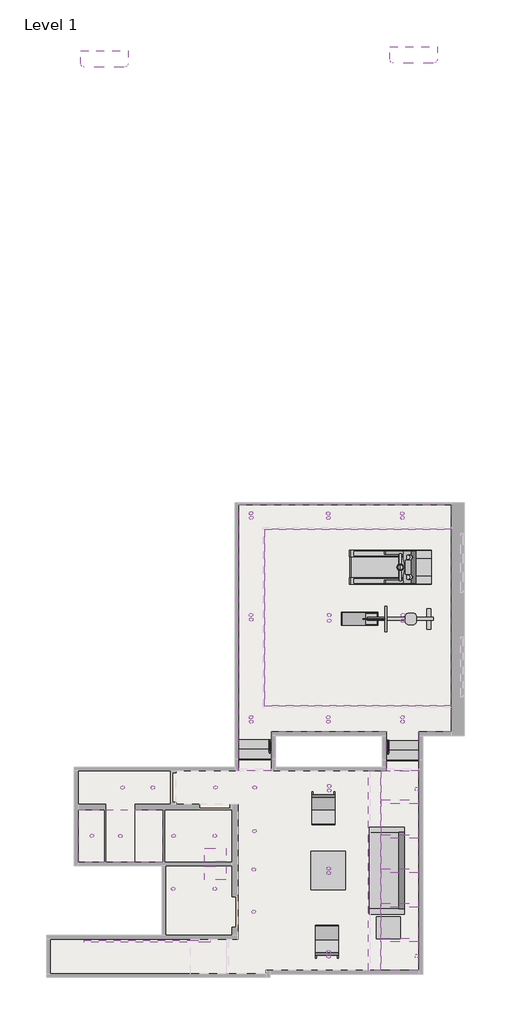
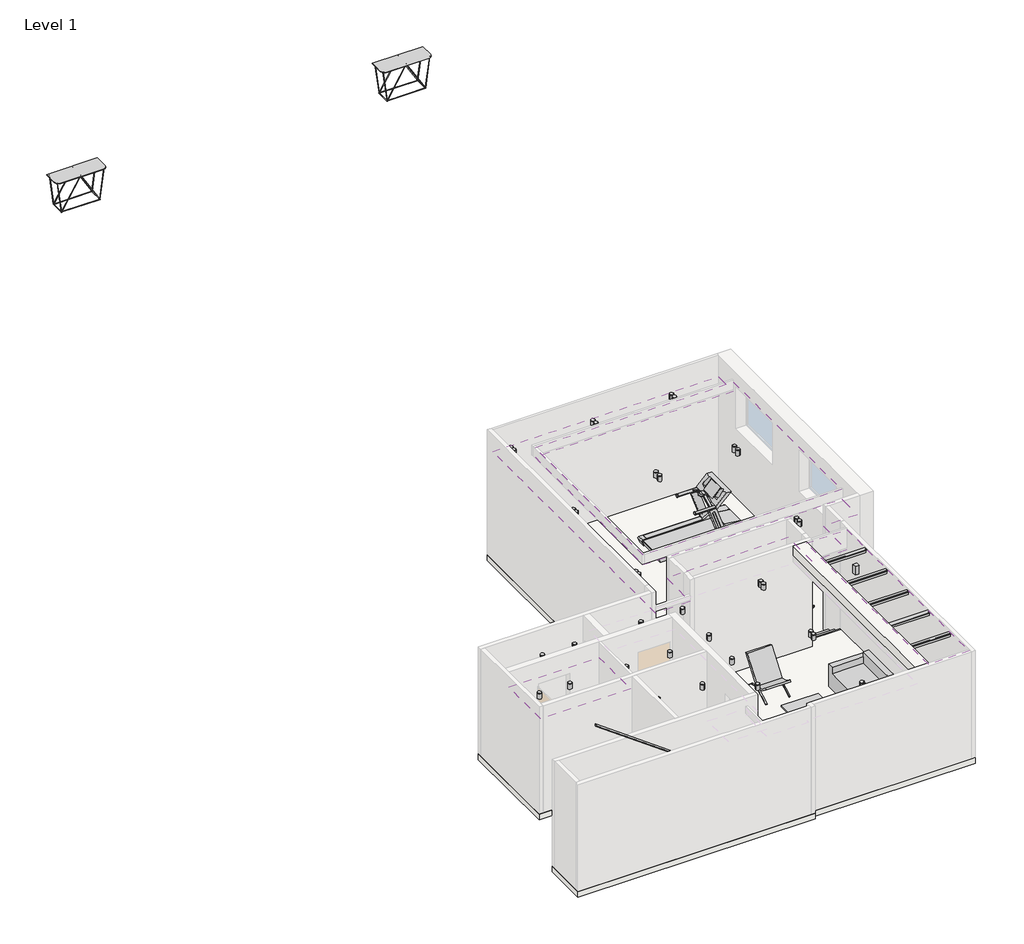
# One storey, part 2 of 2: 39 light fixtures, 7 furniture elements, 5 beams, 4 coverings, 4 slabs, 3 railings, 2 flow terminals, 2 proxies, 2 stair flights.
"""IFC4 building model written with IfcOpenShell, lengths in millimetres."""

from ifc_helpers import new_model, si_unit, point, frame, frame_2d, origin, place, context, project, spatial, polyline, circle_curve, trimmed, segment, composite_curve, outline, extrude, faceted_brep, transform, mapped, element, save
from components import type_1_30184b28, generic_models_89150c6d, treadmill_treadmill_ad7cba51, lavabo_001_lavabo_001_a05f0334, lavabo_001_lavabo_001_02f3cc6c, chair_001_chair_001_a96d8df5, chair_002_chair_002_6fc5d0be, chair_003_chair_003_dcad3793, table_001_table_001_a1878843, table_29_table_12_be3ec3c2, downlight_01_standard_4b9499b6, lighting_02_standard_022d6cc6, c1_3_be0866bc, railing_1_railings_1_d953be8f, railing_2_railings_1_0df469a2

model = new_model("IFC4")

# Units and contexts
model_context = context("Model", 3, world=origin())
ifc_project = project(units=[si_unit("LENGTHUNIT", "METRE", prefix="MILLI")], contexts=[model_context])

# Site, building, storey
site = spatial("IfcSite", under=ifc_project)
building = spatial("IfcBuilding", under=site)
storey = spatial("IfcBuildingStorey", under=building, Name="Level 1", Elevation=0.0)

# Beams
placement = place(None, origin())
type_1_shape = type_1_30184b28(model_context)
element("IfcBeam", 1, ObjectType="M_WT Shapes : type 1", at=placement, inside=storey, context=model_context, shape_type="MappedRepresentation", body=[
    mapped(type_1_shape, transform((3443.8466269, 3718.2967998, 3391.5263783), x_axis=(1.0, 0.0, 0.0), y_axis=(0.0, 1.0, 0.0), z_axis=(0.0, 0.0, 1.0))),
])
element("IfcBeam", 2, ObjectType="M_WT Shapes : type 1", at=placement, inside=storey, context=model_context, shape_type="MappedRepresentation", body=[
    mapped(type_1_shape, transform((3443.8466269, 2803.2967998, 3391.6), x_axis=(1.0, 0.0, 0.0), y_axis=(0.0, 1.0, 0.0), z_axis=(0.0, 0.0, 1.0))),
])
element("IfcBeam", 3, ObjectType="M_WT Shapes : type 1", at=placement, inside=storey, context=model_context, shape_type="MappedRepresentation", body=[
    mapped(type_1_shape, transform((3443.8466269, 1893.2967998, 3391.6), x_axis=(1.0, 0.0, 0.0), y_axis=(0.0, 1.0, 0.0), z_axis=(0.0, 0.0, 1.0))),
])
element("IfcBeam", 4, ObjectType="M_WT Shapes : type 1", at=placement, inside=storey, context=model_context, shape_type="MappedRepresentation", body=[
    mapped(type_1_shape, transform((3443.8466269, 988.2967998, 3391.6), x_axis=(1.0, 0.0, 0.0), y_axis=(0.0, 1.0, 0.0), z_axis=(0.0, 0.0, 1.0))),
])
element("IfcBeam", 5, ObjectType="M_WT Shapes : type 1", at=placement, inside=storey, context=model_context, shape_type="MappedRepresentation", body=[
    mapped(type_1_shape, transform((3443.8466269, 68.2967998, 3391.6), x_axis=(1.0, 0.0, 0.0), y_axis=(0.0, 1.0, 0.0), z_axis=(0.0, 0.0, 1.0))),
])

# Proxies
generic_models_shape = generic_models_89150c6d(model_context)
element("IfcBuildingElementProxy", 6, Name="Rowing_Machine : Rowing_Machine", ObjectType="Rowing_Machine : Rowing_Machine", at=placement, inside=storey, context=model_context, shape_type="MappedRepresentation", body=[
    mapped(generic_models_shape, transform((3322.5966269, 8551.9439115, 0.0), x_axis=(-1.0, 0.0, 0.0), y_axis=(0.0, -1.0, 0.0), z_axis=(0.0, 0.0, 1.0))),
])
treadmill_treadmill_shape = treadmill_treadmill_ad7cba51(model_context)
element("IfcBuildingElementProxy", 7, Name="Treadmill : Treadmill", ObjectType="Treadmill : Treadmill", at=placement, inside=storey, context=model_context, shape_type="MappedRepresentation", body=[
    mapped(treadmill_treadmill_shape, transform((2102.5966269, 9471.9439115, 0.0), x_axis=(0.0, -1.0, 0.0), y_axis=(1.0, 0.0, 0.0), z_axis=(0.0, 0.0, 1.0))),
])

# Coverings
element("IfcCovering", 8, ObjectType="Ceiling", at=placement, inside=storey, context=model_context, shape_type="SweptSolid", body=[
    extrude(outline(polyline([(4807.5966269, 11571.9439115), (4807.5966269, 10921.9439115), (-132.4033731, 10921.9439115), (-132.4033731, 6251.9439115), (4807.5966269, 6251.9439115), (4807.5966269, 5566.9439115), (3950.0966269, 5566.9439115), (3950.0966269, 4538.2967998), (3082.5966269, 4538.2967998), (3082.5966269, 5566.9439115), (52.5966269, 5566.9439115), (52.5966269, 4538.2967998), (-817.4033731, 4538.2967998), (-817.4033731, 11571.9439115), (4807.5966269, 11571.9439115)]), holes=[composite_curve([segment(trimmed(circle_curve(frame_2d((-492.4033731, 5951.9439115)), 50.0), [point((-542.4033731, 5951.9439115))], [point((-442.4033731, 5951.9439115))], True, "CARTESIAN"), True, "CONTINUOUS"), segment(trimmed(circle_curve(frame_2d((-492.4033731, 5951.9439115)), 50.0), [point((-442.4033731, 5951.9439115))], [point((-542.4033731, 5951.9439115))], True, "CARTESIAN"), True, "CONTINUOUS")], self_intersect=False), composite_curve([segment(trimmed(circle_curve(frame_2d((-487.6682707, 5836.6802496)), 50.0), [point((-537.6682707, 5836.6802496))], [point((-437.6682707, 5836.6802496))], True, "CARTESIAN"), True, "CONTINUOUS"), segment(trimmed(circle_curve(frame_2d((-487.6682707, 5836.6802496)), 50.0), [point((-437.6682707, 5836.6802496))], [point((-537.6682707, 5836.6802496))], True, "CARTESIAN"), True, "CONTINUOUS")], self_intersect=False), composite_curve([segment(trimmed(circle_curve(frame_2d((-492.4033731, 8651.9439115)), 50.0), [point((-542.4033731, 8651.9439115))], [point((-442.4033731, 8651.9439115))], True, "CARTESIAN"), True, "CONTINUOUS"), segment(trimmed(circle_curve(frame_2d((-492.4033731, 8651.9439115)), 50.0), [point((-442.4033731, 8651.9439115))], [point((-542.4033731, 8651.9439115))], True, "CARTESIAN"), True, "CONTINUOUS")], self_intersect=False), composite_curve([segment(trimmed(circle_curve(frame_2d((-487.6682707, 8536.6802496)), 50.0), [point((-537.6682707, 8536.6802496))], [point((-437.6682707, 8536.6802496))], True, "CARTESIAN"), True, "CONTINUOUS"), segment(trimmed(circle_curve(frame_2d((-487.6682707, 8536.6802496)), 50.0), [point((-437.6682707, 8536.6802496))], [point((-537.6682707, 8536.6802496))], True, "CARTESIAN"), True, "CONTINUOUS")], self_intersect=False), composite_curve([segment(trimmed(circle_curve(frame_2d((-492.4033731, 11341.9439115)), 50.0), [point((-542.4033731, 11341.9439115))], [point((-442.4033731, 11341.9439115))], True, "CARTESIAN"), True, "CONTINUOUS"), segment(trimmed(circle_curve(frame_2d((-492.4033731, 11341.9439115)), 50.0), [point((-442.4033731, 11341.9439115))], [point((-542.4033731, 11341.9439115))], True, "CARTESIAN"), True, "CONTINUOUS")], self_intersect=False), composite_curve([segment(trimmed(circle_curve(frame_2d((-487.6682707, 11226.6802496)), 50.0), [point((-537.6682707, 11226.6802496))], [point((-437.6682707, 11226.6802496))], True, "CARTESIAN"), True, "CONTINUOUS"), segment(trimmed(circle_curve(frame_2d((-487.6682707, 11226.6802496)), 50.0), [point((-437.6682707, 11226.6802496))], [point((-537.6682707, 11226.6802496))], True, "CARTESIAN"), True, "CONTINUOUS")], self_intersect=False), composite_curve([segment(trimmed(circle_curve(frame_2d((1547.5966269, 11336.9439115)), 50.0), [point((1497.5966269, 11336.9439115))], [point((1597.5966269, 11336.9439115))], True, "CARTESIAN"), True, "CONTINUOUS"), segment(trimmed(circle_curve(frame_2d((1547.5966269, 11336.9439115)), 50.0), [point((1597.5966269, 11336.9439115))], [point((1497.5966269, 11336.9439115))], True, "CARTESIAN"), True, "CONTINUOUS")], self_intersect=False), composite_curve([segment(trimmed(circle_curve(frame_2d((1552.3317293, 11221.6802496)), 50.0), [point((1502.3317293, 11221.6802496))], [point((1602.3317293, 11221.6802496))], True, "CARTESIAN"), True, "CONTINUOUS"), segment(trimmed(circle_curve(frame_2d((1552.3317293, 11221.6802496)), 50.0), [point((1602.3317293, 11221.6802496))], [point((1502.3317293, 11221.6802496))], True, "CARTESIAN"), True, "CONTINUOUS")], self_intersect=False), composite_curve([segment(trimmed(circle_curve(frame_2d((3507.5966269, 11336.9439115)), 50.0), [point((3457.5966269, 11336.9439115))], [point((3557.5966269, 11336.9439115))], True, "CARTESIAN"), True, "CONTINUOUS"), segment(trimmed(circle_curve(frame_2d((3507.5966269, 11336.9439115)), 50.0), [point((3557.5966269, 11336.9439115))], [point((3457.5966269, 11336.9439115))], True, "CARTESIAN"), True, "CONTINUOUS")], self_intersect=False), composite_curve([segment(trimmed(circle_curve(frame_2d((3512.3317293, 11221.6802496)), 50.0), [point((3462.3317293, 11221.6802496))], [point((3562.3317293, 11221.6802496))], True, "CARTESIAN"), True, "CONTINUOUS"), segment(trimmed(circle_curve(frame_2d((3512.3317293, 11221.6802496)), 50.0), [point((3562.3317293, 11221.6802496))], [point((3462.3317293, 11221.6802496))], True, "CARTESIAN"), True, "CONTINUOUS")], self_intersect=False), composite_curve([segment(trimmed(circle_curve(frame_2d((1547.5966269, 5951.9439115)), 50.0), [point((1497.5966269, 5951.9439115))], [point((1597.5966269, 5951.9439115))], True, "CARTESIAN"), True, "CONTINUOUS"), segment(trimmed(circle_curve(frame_2d((1547.5966269, 5951.9439115)), 50.0), [point((1597.5966269, 5951.9439115))], [point((1497.5966269, 5951.9439115))], True, "CARTESIAN"), True, "CONTINUOUS")], self_intersect=False), composite_curve([segment(trimmed(circle_curve(frame_2d((1552.3317293, 5836.6802496)), 50.0), [point((1502.3317293, 5836.6802496))], [point((1602.3317293, 5836.6802496))], True, "CARTESIAN"), True, "CONTINUOUS"), segment(trimmed(circle_curve(frame_2d((1552.3317293, 5836.6802496)), 50.0), [point((1602.3317293, 5836.6802496))], [point((1502.3317293, 5836.6802496))], True, "CARTESIAN"), True, "CONTINUOUS")], self_intersect=False), composite_curve([segment(trimmed(circle_curve(frame_2d((3512.5966269, 5951.9439115)), 50.0), [point((3462.5966269, 5951.9439115))], [point((3562.5966269, 5951.9439115))], True, "CARTESIAN"), True, "CONTINUOUS"), segment(trimmed(circle_curve(frame_2d((3512.5966269, 5951.9439115)), 50.0), [point((3562.5966269, 5951.9439115))], [point((3462.5966269, 5951.9439115))], True, "CARTESIAN"), True, "CONTINUOUS")], self_intersect=False), composite_curve([segment(trimmed(circle_curve(frame_2d((3517.3317293, 5836.6802496)), 50.0), [point((3467.3317293, 5836.6802496))], [point((3567.3317293, 5836.6802496))], True, "CARTESIAN"), True, "CONTINUOUS"), segment(trimmed(circle_curve(frame_2d((3517.3317293, 5836.6802496)), 50.0), [point((3567.3317293, 5836.6802496))], [point((3467.3317293, 5836.6802496))], True, "CARTESIAN"), True, "CONTINUOUS")], self_intersect=False)]), frame((0.0, 0.0, 2726.25), z_axis=(0.0, 0.0, 1.0), x_axis=(1.0, 0.0, 0.0)), (0.0, 0.0, 1.0), 50.0),
])
element("IfcCovering", 9, ObjectType="Ceiling", at=placement, inside=storey, context=model_context, shape_type="SweptSolid", body=[
    extrude(outline(polyline([(-132.4033731, 10921.9439115), (4807.5966269, 10921.9439115), (4807.5966269, 6251.9439115), (-132.4033731, 6251.9439115), (-132.4033731, 10921.9439115)]), holes=[composite_curve([segment(trimmed(circle_curve(frame_2d((1575.2391336, 8503.4334635)), 50.0), [point((1525.2391336, 8503.4334635))], [point((1625.2391336, 8503.4334635))], True, "CARTESIAN"), True, "CONTINUOUS"), segment(trimmed(circle_curve(frame_2d((1575.2391336, 8503.4334635)), 50.0), [point((1625.2391336, 8503.4334635))], [point((1525.2391336, 8503.4334635))], True, "CARTESIAN"), True, "CONTINUOUS")], self_intersect=False), composite_curve([segment(trimmed(circle_curve(frame_2d((1572.4962229, 8657.0364615)), 50.0), [point((1522.4962229, 8657.0364615))], [point((1622.4962229, 8657.0364615))], True, "CARTESIAN"), True, "CONTINUOUS"), segment(trimmed(circle_curve(frame_2d((1572.4962229, 8657.0364615)), 50.0), [point((1622.4962229, 8657.0364615))], [point((1522.4962229, 8657.0364615))], True, "CARTESIAN"), True, "CONTINUOUS")], self_intersect=False), composite_curve([segment(trimmed(circle_curve(frame_2d((3525.2391336, 8503.4334635)), 50.0), [point((3475.2391336, 8503.4334635))], [point((3575.2391336, 8503.4334635))], True, "CARTESIAN"), True, "CONTINUOUS"), segment(trimmed(circle_curve(frame_2d((3525.2391336, 8503.4334635)), 50.0), [point((3575.2391336, 8503.4334635))], [point((3475.2391336, 8503.4334635))], True, "CARTESIAN"), True, "CONTINUOUS")], self_intersect=False), composite_curve([segment(trimmed(circle_curve(frame_2d((3522.4962229, 8657.0364615)), 50.0), [point((3472.4962229, 8657.0364615))], [point((3572.4962229, 8657.0364615))], True, "CARTESIAN"), True, "CONTINUOUS"), segment(trimmed(circle_curve(frame_2d((3522.4962229, 8657.0364615)), 50.0), [point((3572.4962229, 8657.0364615))], [point((3472.4962229, 8657.0364615))], True, "CARTESIAN"), True, "CONTINUOUS")], self_intersect=False)]), frame((0.0, 0.0, 2980.0), z_axis=(0.0, 0.0, 1.0), x_axis=(1.0, 0.0, 0.0)), (0.0, 0.0, 1.0), 50.0),
])
element("IfcCovering", 10, ObjectType="Ceiling", at=placement, inside=storey, context=model_context, shape_type="SweptSolid", body=[
    extrude(outline(polyline([(-2825.2983634, 3503.3787458), (-2825.2983634, 2123.2967998), (-5069.9033731, 2123.2967998), (-5069.9033731, 3503.3787458), (-2825.2983634, 3503.3787458)]), holes=[composite_curve([segment(trimmed(circle_curve(frame_2d((-3949.9033731, 2813.0198069)), 50.0), [point((-3999.9033731, 2813.0198069))], [point((-3899.9033731, 2813.0198069))], True, "CARTESIAN"), True, "CONTINUOUS"), segment(trimmed(circle_curve(frame_2d((-3949.9033731, 2813.0198069)), 50.0), [point((-3899.9033731, 2813.0198069))], [point((-3999.9033731, 2813.0198069))], True, "CARTESIAN"), True, "CONTINUOUS")], self_intersect=False), composite_curve([segment(trimmed(circle_curve(frame_2d((-4703.0019919, 2823.0198069)), 50.0), [point((-4753.0019919, 2823.0198069))], [point((-4653.0019919, 2823.0198069))], True, "CARTESIAN"), True, "CONTINUOUS"), segment(trimmed(circle_curve(frame_2d((-4703.0019919, 2823.0198069)), 50.0), [point((-4653.0019919, 2823.0198069))], [point((-4753.0019919, 2823.0198069))], True, "CARTESIAN"), True, "CONTINUOUS")], self_intersect=False)]), frame((0.0, 0.0, 2895.0), z_axis=(0.0, 0.0, 1.0), x_axis=(1.0, 0.0, 0.0)), (0.0, 0.0, 1.0), 50.0),
])
element("IfcCovering", 11, ObjectType="Ceiling_glass", at=placement, inside=storey, context=model_context, shape_type="SweptSolid", body=[
    extrude(outline(polyline([(3950.0966269, 4538.2967998), (3950.0966269, -737.9532002), (2937.5966269, -737.9532002), (2937.5966269, 4538.2967998), (3950.0966269, 4538.2967998)])), frame((0.0, 0.0, 3260.0), z_axis=(0.0, 0.0, 1.0), x_axis=(1.0, 0.0, 0.0)), (0.0, 0.0, 1.0), 10.0),
])

# Flow terminals
lavabo_001_lavabo_001_shape = lavabo_001_lavabo_001_a05f0334(model_context)
element("IfcFlowTerminal", 12, ObjectType="Lavabo_001 : Lavabo_001", at=placement, inside=storey, context=model_context, shape_type="MappedRepresentation", body=[
    mapped(lavabo_001_lavabo_001_shape, transform((-1333.3418733, 2306.615759, 0.0), x_axis=(1.0, 0.0, 0.0), y_axis=(0.0, 1.0, 0.0), z_axis=(0.0, 0.0, 1.0))),
])
lavabo_001_lavabo_001_2_shape = lavabo_001_lavabo_001_02f3cc6c(model_context)
element("IfcFlowTerminal", 13, ObjectType="Lavabo_001 : Lavabo_001", at=placement, inside=storey, context=model_context, shape_type="MappedRepresentation", body=[
    mapped(lavabo_001_lavabo_001_2_shape, transform((-1333.3418733, 1839.9778407, 0.0), x_axis=(1.0, 0.0, 0.0), y_axis=(0.0, 1.0, 0.0), z_axis=(0.0, 0.0, 1.0))),
])

# Furniture
chair_001_chair_001_shape = chair_001_chair_001_a96d8df5(model_context)
element("IfcFurniture", 14, ObjectType="Chair_001 : Chair_001", at=placement, inside=storey, context=model_context, shape_type="MappedRepresentation", body=[
    mapped(chair_001_chair_001_shape, transform((3120.6527324, 1580.9239762, 480.0), x_axis=(1.0, 0.0, 0.0), y_axis=(0.0, 1.0, 0.0), z_axis=(0.0, 0.0, 1.0))),
])
chair_002_chair_002_shape = chair_002_chair_002_6fc5d0be(model_context)
element("IfcFurniture", 15, ObjectType="Chair_002 : Chair_002", at=placement, inside=storey, context=model_context, shape_type="MappedRepresentation", body=[
    mapped(chair_002_chair_002_shape, transform((3079.2613154, 352.1169982, 480.0), x_axis=(1.0, 0.0, 0.0), y_axis=(0.0, 1.0, 0.0), z_axis=(0.0, 0.0, 1.0))),
])
chair_003_chair_003_shape = chair_003_chair_003_dcad3793(model_context)
element("IfcFurniture", 16, ObjectType="Chair_003 : Chair_003", at=placement, inside=storey, context=model_context, shape_type="MappedRepresentation", body=[
    mapped(chair_003_chair_003_shape, transform((1462.5966269, 3498.2967998, 480.0), x_axis=(1.0, 0.0, 0.0), y_axis=(0.0, 1.0, 0.0), z_axis=(0.0, 0.0, 1.0))),
])
element("IfcFurniture", 17, ObjectType="Chair_003 : Chair_003", at=placement, inside=storey, context=model_context, shape_type="MappedRepresentation", body=[
    mapped(chair_003_chair_003_shape, transform((1477.5966269, 68.2967998, 480.0), x_axis=(-1.0, 0.0, 0.0), y_axis=(0.0, -1.0, 0.0), z_axis=(0.0, 0.0, 1.0))),
])
table_001_table_001_shape = table_001_table_001_a1878843(model_context)
element("IfcFurniture", 18, ObjectType="Table_001 : Table_001", at=placement, inside=storey, context=model_context, shape_type="MappedRepresentation", body=[
    mapped(table_001_table_001_shape, transform((1550.0966269, 1907.0467998, 480.0), x_axis=(1.0, 0.0, 0.0), y_axis=(0.0, 1.0, 0.0), z_axis=(0.0, 0.0, 1.0))),
])
table_29_table_12_shape = table_29_table_12_be3ec3c2(model_context)
element("IfcFurniture", 19, ObjectType="Table_29 : Table_12", at=placement, inside=storey, context=model_context, shape_type="MappedRepresentation", body=[
    mapped(table_29_table_12_shape, transform((-8178.7632847, -111.7135403, 0.0), x_axis=(1.0, 0.0, 0.0), y_axis=(0.0, 1.0, 0.0), z_axis=(0.0, 0.0, 1.0))),
])
element("IfcFurniture", 20, ObjectType="Table_8 : Table_12", at=placement, inside=storey, context=model_context, shape_type="MappedRepresentation", body=[
    mapped(table_29_table_12_shape, transform((0.0, 0.0, 0.0), x_axis=(1.0, 0.0, 0.0), y_axis=(0.0, 1.0, 0.0), z_axis=(0.0, 0.0, 1.0))),
])

# Light fixtures
downlight_01_standard_shape = downlight_01_standard_4b9499b6(model_context)
element("IfcLightFixture", 21, ObjectType="Downlight _01 : Standard", at=placement, inside=storey, context=model_context, shape_type="MappedRepresentation", body=[
    mapped(downlight_01_standard_shape, transform((-492.4033731, 5951.9439115, 287.85), x_axis=(1.0, 0.0, 0.0), y_axis=(0.0, 1.0, 0.0), z_axis=(0.0, 0.0, 1.0))),
])
element("IfcLightFixture", 22, ObjectType="Downlight _01 : Standard", at=placement, inside=storey, context=model_context, shape_type="MappedRepresentation", body=[
    mapped(downlight_01_standard_shape, transform((-487.6682707, 5836.6802496, 287.85), x_axis=(1.0, 0.0, 0.0), y_axis=(0.0, 1.0, 0.0), z_axis=(0.0, 0.0, 1.0))),
])
element("IfcLightFixture", 23, ObjectType="Downlight _01 : Standard", at=placement, inside=storey, context=model_context, shape_type="MappedRepresentation", body=[
    mapped(downlight_01_standard_shape, transform((-492.4033731, 8651.9439115, 287.85), x_axis=(1.0, 0.0, 0.0), y_axis=(0.0, 1.0, 0.0), z_axis=(0.0, 0.0, 1.0))),
])
element("IfcLightFixture", 24, ObjectType="Downlight _01 : Standard", at=placement, inside=storey, context=model_context, shape_type="MappedRepresentation", body=[
    mapped(downlight_01_standard_shape, transform((-487.6682707, 8536.6802496, 287.85), x_axis=(1.0, 0.0, 0.0), y_axis=(0.0, 1.0, 0.0), z_axis=(0.0, 0.0, 1.0))),
])
element("IfcLightFixture", 25, ObjectType="Downlight _01 : Standard", at=placement, inside=storey, context=model_context, shape_type="MappedRepresentation", body=[
    mapped(downlight_01_standard_shape, transform((-492.4033731, 11341.9439115, 287.85), x_axis=(1.0, 0.0, 0.0), y_axis=(0.0, 1.0, 0.0), z_axis=(0.0, 0.0, 1.0))),
])
element("IfcLightFixture", 26, ObjectType="Downlight _01 : Standard", at=placement, inside=storey, context=model_context, shape_type="MappedRepresentation", body=[
    mapped(downlight_01_standard_shape, transform((-487.6682707, 11226.6802496, 287.85), x_axis=(1.0, 0.0, 0.0), y_axis=(0.0, 1.0, 0.0), z_axis=(0.0, 0.0, 1.0))),
])
element("IfcLightFixture", 27, ObjectType="Downlight _01 : Standard", at=placement, inside=storey, context=model_context, shape_type="MappedRepresentation", body=[
    mapped(downlight_01_standard_shape, transform((1547.5966269, 11336.9439115, 287.85), x_axis=(1.0, 0.0, 0.0), y_axis=(0.0, 1.0, 0.0), z_axis=(0.0, 0.0, 1.0))),
])
element("IfcLightFixture", 28, ObjectType="Downlight _01 : Standard", at=placement, inside=storey, context=model_context, shape_type="MappedRepresentation", body=[
    mapped(downlight_01_standard_shape, transform((1552.3317293, 11221.6802496, 287.85), x_axis=(1.0, 0.0, 0.0), y_axis=(0.0, 1.0, 0.0), z_axis=(0.0, 0.0, 1.0))),
])
element("IfcLightFixture", 29, ObjectType="Downlight _01 : Standard", at=placement, inside=storey, context=model_context, shape_type="MappedRepresentation", body=[
    mapped(downlight_01_standard_shape, transform((3507.5966269, 11336.9439115, 287.85), x_axis=(1.0, 0.0, 0.0), y_axis=(0.0, 1.0, 0.0), z_axis=(0.0, 0.0, 1.0))),
])
element("IfcLightFixture", 30, ObjectType="Downlight _01 : Standard", at=placement, inside=storey, context=model_context, shape_type="MappedRepresentation", body=[
    mapped(downlight_01_standard_shape, transform((3512.3317293, 11221.6802496, 287.85), x_axis=(1.0, 0.0, 0.0), y_axis=(0.0, 1.0, 0.0), z_axis=(0.0, 0.0, 1.0))),
])
element("IfcLightFixture", 31, ObjectType="Downlight _01 : Standard", at=placement, inside=storey, context=model_context, shape_type="MappedRepresentation", body=[
    mapped(downlight_01_standard_shape, transform((1547.5966269, 5951.9439115, 287.85), x_axis=(1.0, 0.0, 0.0), y_axis=(0.0, 1.0, 0.0), z_axis=(0.0, 0.0, 1.0))),
])
element("IfcLightFixture", 32, ObjectType="Downlight _01 : Standard", at=placement, inside=storey, context=model_context, shape_type="MappedRepresentation", body=[
    mapped(downlight_01_standard_shape, transform((1552.3317293, 5836.6802496, 287.85), x_axis=(1.0, 0.0, 0.0), y_axis=(0.0, 1.0, 0.0), z_axis=(0.0, 0.0, 1.0))),
])
element("IfcLightFixture", 33, ObjectType="Downlight _01 : Standard", at=placement, inside=storey, context=model_context, shape_type="MappedRepresentation", body=[
    mapped(downlight_01_standard_shape, transform((3512.5966269, 5951.9439115, 287.85), x_axis=(1.0, 0.0, 0.0), y_axis=(0.0, 1.0, 0.0), z_axis=(0.0, 0.0, 1.0))),
])
element("IfcLightFixture", 34, ObjectType="Downlight _01 : Standard", at=placement, inside=storey, context=model_context, shape_type="MappedRepresentation", body=[
    mapped(downlight_01_standard_shape, transform((3517.3317293, 5836.6802496, 287.85), x_axis=(1.0, 0.0, 0.0), y_axis=(0.0, 1.0, 0.0), z_axis=(0.0, 0.0, 1.0))),
])
element("IfcLightFixture", 35, ObjectType="Downlight _01 : Standard", at=placement, inside=storey, context=model_context, shape_type="MappedRepresentation", body=[
    mapped(downlight_01_standard_shape, transform((1575.2391336, 8503.4334635, 541.6), x_axis=(1.0, 0.0, 0.0), y_axis=(0.0, 1.0, 0.0), z_axis=(0.0, 0.0, 1.0))),
])
element("IfcLightFixture", 36, ObjectType="Downlight _01 : Standard", at=placement, inside=storey, context=model_context, shape_type="MappedRepresentation", body=[
    mapped(downlight_01_standard_shape, transform((1572.4962229, 8657.0364615, 541.6), x_axis=(1.0, 0.0, 0.0), y_axis=(0.0, 1.0, 0.0), z_axis=(0.0, 0.0, 1.0))),
])
element("IfcLightFixture", 37, ObjectType="Downlight _01 : Standard", at=placement, inside=storey, context=model_context, shape_type="MappedRepresentation", body=[
    mapped(downlight_01_standard_shape, transform((3525.2391336, 8503.4334635, 541.6), x_axis=(1.0, 0.0, 0.0), y_axis=(0.0, 1.0, 0.0), z_axis=(0.0, 0.0, 1.0))),
])
element("IfcLightFixture", 38, ObjectType="Downlight _01 : Standard", at=placement, inside=storey, context=model_context, shape_type="MappedRepresentation", body=[
    mapped(downlight_01_standard_shape, transform((3522.4962229, 8657.0364615, 541.6), x_axis=(1.0, 0.0, 0.0), y_axis=(0.0, 1.0, 0.0), z_axis=(0.0, 0.0, 1.0))),
])
element("IfcLightFixture", 39, ObjectType="Downlight _01 : Standard", at=placement, inside=storey, context=model_context, shape_type="MappedRepresentation", body=[
    mapped(downlight_01_standard_shape, transform((1572.5966269, 4138.2967998, 406.6), x_axis=(1.0, 0.0, 0.0), y_axis=(0.0, 1.0, 0.0), z_axis=(0.0, 0.0, 1.0))),
])
element("IfcLightFixture", 40, ObjectType="Downlight _01 : Standard", at=placement, inside=storey, context=model_context, shape_type="MappedRepresentation", body=[
    mapped(downlight_01_standard_shape, transform((1572.5966269, 4018.2967998, 406.6), x_axis=(1.0, 0.0, 0.0), y_axis=(0.0, 1.0, 0.0), z_axis=(0.0, 0.0, 1.0))),
])
element("IfcLightFixture", 41, ObjectType="Downlight _01 : Standard", at=placement, inside=storey, context=model_context, shape_type="MappedRepresentation", body=[
    mapped(downlight_01_standard_shape, transform((-397.4033731, 4098.2967998, 406.6), x_axis=(1.0, 0.0, 0.0), y_axis=(0.0, 1.0, 0.0), z_axis=(0.0, 0.0, 1.0))),
])
element("IfcLightFixture", 42, ObjectType="Downlight _01 : Standard", at=placement, inside=storey, context=model_context, shape_type="MappedRepresentation", body=[
    mapped(downlight_01_standard_shape, transform((-1432.4033731, 4098.2967998, 406.6), x_axis=(1.0, 0.0, 0.0), y_axis=(0.0, 1.0, 0.0), z_axis=(0.0, 0.0, 1.0))),
])
element("IfcLightFixture", 43, ObjectType="Downlight _01 : Standard", at=placement, inside=storey, context=model_context, shape_type="MappedRepresentation", body=[
    mapped(downlight_01_standard_shape, transform((-3090.2983634, 4093.3787458, 406.6), x_axis=(1.0, 0.0, 0.0), y_axis=(0.0, 1.0, 0.0), z_axis=(0.0, 0.0, 1.0))),
])
element("IfcLightFixture", 44, ObjectType="Downlight _01 : Standard", at=placement, inside=storey, context=model_context, shape_type="MappedRepresentation", body=[
    mapped(downlight_01_standard_shape, transform((-3890.2983634, 4093.3787458, 406.6), x_axis=(1.0, 0.0, 0.0), y_axis=(0.0, 1.0, 0.0), z_axis=(0.0, 0.0, 1.0))),
])
element("IfcLightFixture", 45, ObjectType="Downlight _01 : Standard", at=placement, inside=storey, context=model_context, shape_type="MappedRepresentation", body=[
    mapped(downlight_01_standard_shape, transform((-402.4033731, 2943.3787458, 406.6), x_axis=(1.0, 0.0, 0.0), y_axis=(0.0, 1.0, 0.0), z_axis=(0.0, 0.0, 1.0))),
])
element("IfcLightFixture", 46, ObjectType="Downlight _01 : Standard", at=placement, inside=storey, context=model_context, shape_type="MappedRepresentation", body=[
    mapped(downlight_01_standard_shape, transform((-422.4033731, 1930.1209843, 406.6), x_axis=(1.0, 0.0, 0.0), y_axis=(0.0, 1.0, 0.0), z_axis=(0.0, 0.0, 1.0))),
])
element("IfcLightFixture", 47, ObjectType="Downlight _01 : Standard", at=placement, inside=storey, context=model_context, shape_type="MappedRepresentation", body=[
    mapped(downlight_01_standard_shape, transform((-422.4033731, 813.4642458, 406.6), x_axis=(1.0, 0.0, 0.0), y_axis=(0.0, 1.0, 0.0), z_axis=(0.0, 0.0, 1.0))),
])
element("IfcLightFixture", 48, ObjectType="Downlight _01 : Standard", at=placement, inside=storey, context=model_context, shape_type="MappedRepresentation", body=[
    mapped(downlight_01_standard_shape, transform((1562.5966269, 1958.2967998, 406.6), x_axis=(1.0, 0.0, 0.0), y_axis=(0.0, 1.0, 0.0), z_axis=(0.0, 0.0, 1.0))),
])
element("IfcLightFixture", 49, ObjectType="Downlight _01 : Standard", at=placement, inside=storey, context=model_context, shape_type="MappedRepresentation", body=[
    mapped(downlight_01_standard_shape, transform((1562.5966269, 1838.2967998, 406.6), x_axis=(1.0, 0.0, 0.0), y_axis=(0.0, 1.0, 0.0), z_axis=(0.0, 0.0, 1.0))),
])
element("IfcLightFixture", 50, ObjectType="Downlight _01 : Standard", at=placement, inside=storey, context=model_context, shape_type="MappedRepresentation", body=[
    mapped(downlight_01_standard_shape, transform((1562.5966269, -251.7032002, 406.6), x_axis=(1.0, 0.0, 0.0), y_axis=(0.0, 1.0, 0.0), z_axis=(0.0, 0.0, 1.0))),
])
element("IfcLightFixture", 51, ObjectType="Downlight _01 : Standard", at=placement, inside=storey, context=model_context, shape_type="MappedRepresentation", body=[
    mapped(downlight_01_standard_shape, transform((1562.5966269, -371.7032002, 406.6), x_axis=(1.0, 0.0, 0.0), y_axis=(0.0, 1.0, 0.0), z_axis=(0.0, 0.0, 1.0))),
])
element("IfcLightFixture", 52, ObjectType="Downlight _01 : Standard", at=placement, inside=storey, context=model_context, shape_type="MappedRepresentation", body=[
    mapped(downlight_01_standard_shape, transform((-1450.2983634, 2818.2967998, 406.6), x_axis=(1.0, 0.0, 0.0), y_axis=(0.0, 1.0, 0.0), z_axis=(0.0, 0.0, 1.0))),
])
element("IfcLightFixture", 53, ObjectType="Downlight _01 : Standard", at=placement, inside=storey, context=model_context, shape_type="MappedRepresentation", body=[
    mapped(downlight_01_standard_shape, transform((-1450.2983634, 1418.2967998, 406.6), x_axis=(1.0, 0.0, 0.0), y_axis=(0.0, 1.0, 0.0), z_axis=(0.0, 0.0, 1.0))),
])
element("IfcLightFixture", 54, ObjectType="Downlight _01 : Standard", at=placement, inside=storey, context=model_context, shape_type="MappedRepresentation", body=[
    mapped(downlight_01_standard_shape, transform((-2552.4033731, 1418.2967998, 406.6), x_axis=(1.0, 0.0, 0.0), y_axis=(0.0, 1.0, 0.0), z_axis=(0.0, 0.0, 1.0))),
])
element("IfcLightFixture", 55, ObjectType="Downlight _01 : Standard", at=placement, inside=storey, context=model_context, shape_type="MappedRepresentation", body=[
    mapped(downlight_01_standard_shape, transform((-2540.2983634, 2818.2967998, 406.6), x_axis=(1.0, 0.0, 0.0), y_axis=(0.0, 1.0, 0.0), z_axis=(0.0, 0.0, 1.0))),
])
element("IfcLightFixture", 56, ObjectType="Downlight _01 : Standard", at=placement, inside=storey, context=model_context, shape_type="MappedRepresentation", body=[
    mapped(downlight_01_standard_shape, transform((-3949.9033731, 2813.0198069, 456.6), x_axis=(1.0, 0.0, 0.0), y_axis=(0.0, 1.0, 0.0), z_axis=(0.0, 0.0, 1.0))),
])
element("IfcLightFixture", 57, ObjectType="Downlight _01 : Standard", at=placement, inside=storey, context=model_context, shape_type="MappedRepresentation", body=[
    mapped(downlight_01_standard_shape, transform((-4703.0019919, 2823.0198069, 456.6), x_axis=(1.0, 0.0, 0.0), y_axis=(0.0, 1.0, 0.0), z_axis=(0.0, 0.0, 1.0))),
])
lighting_02_standard_shape = lighting_02_standard_022d6cc6(model_context)
element("IfcLightFixture", 58, ObjectType="Lighting_02 : Standard", at=placement, inside=storey, context=model_context, shape_type="MappedRepresentation", body=[
    mapped(lighting_02_standard_shape, transform((3900.0966269, 4018.2129012, 2413.8950342), x_axis=(1.0, 0.0, 0.0), y_axis=(0.0, 1.0, 0.0), z_axis=(0.0, 0.0, 1.0))),
])
element("IfcLightFixture", 59, ObjectType="Lighting_02 : Standard", at=placement, inside=storey, context=model_context, shape_type="MappedRepresentation", body=[
    mapped(lighting_02_standard_shape, transform((3900.0966269, -401.7870988, 2413.8950342), x_axis=(1.0, 0.0, 0.0), y_axis=(0.0, 1.0, 0.0), z_axis=(0.0, 0.0, 1.0))),
])

# Railings
c1_3_shape = c1_3_be0866bc(model_context)
element("IfcRailing", 60, ObjectType="C1 3", at=placement, inside=storey, context=model_context, shape_type="MappedRepresentation", body=[
    mapped(c1_3_shape, transform((0.0, 0.0, 0.0), x_axis=(1.0, 0.0, 0.0), y_axis=(0.0, 1.0, 0.0), z_axis=(0.0, 0.0, 1.0))),
])
railing_1_railings_1_shape = railing_1_railings_1_d953be8f(model_context)
element("IfcRailing", 61, ObjectType="Railing 1 : Railings 1", at=placement, inside=storey, context=model_context, shape_type="MappedRepresentation", body=[
    mapped(railing_1_railings_1_shape, transform((0.0, 0.0, 0.0), x_axis=(1.0, 0.0, 0.0), y_axis=(0.0, 1.0, 0.0), z_axis=(0.0, 0.0, 1.0))),
])
railing_2_railings_1_shape = railing_2_railings_1_0df469a2(model_context)
element("IfcRailing", 62, ObjectType="Railing 2 : Railings 1", at=placement, inside=storey, context=model_context, shape_type="MappedRepresentation", body=[
    mapped(railing_2_railings_1_shape, transform((-2930.0, -5.0, -15.0), x_axis=(1.0, 0.0, 0.0), y_axis=(0.0, 1.0, 0.0), z_axis=(0.0, 0.0, 1.0))),
])

# Slabs
element("IfcSlab", 63, ObjectType="Floor_150", at=placement, inside=storey, context=model_context, shape_type="SweptSolid", body=[
    extrude(outline(polyline([(5147.5966269, 5466.9439115), (4050.0966269, 5466.9439115), (4050.0966269, 4817.0467998), (2982.5966269, 4817.0467998), (2982.5966269, 5466.9439115), (152.5966269, 5466.9439115), (152.5966269, 4837.0467998), (-917.4033731, 4837.0467998), (-917.4033731, 11621.9439115), (5147.5966269, 11621.9439115), (5147.5966269, 5466.9439115)])), frame((0.0, 0.0, -150.0), z_axis=(0.0, 0.0, 1.0), x_axis=(1.0, 0.0, 0.0)), (0.0, 0.0, 1.0), 150.0),
])
element("IfcSlab", 64, ObjectType="Floor_150", at=placement, inside=storey, context=model_context, shape_type="SweptSolid", body=[
    extrude(outline(polyline([(4050.0966269, -837.9532002), (7.5966269, -837.9532002), (7.5966269, -922.9532002), (-5903.0019919, -922.9532002), (-5903.0019919, 185.8787458), (-2850.2983634, 185.8787458), (-2850.2983634, 2023.2967998), (-5169.9033731, 2023.2967998), (-5169.9033731, 4638.2967998), (-917.4033731, 4638.2967998), (-917.4033731, 4837.0467998), (-817.4033731, 4837.0467998), (-817.4033731, 4817.0467998), (52.5966269, 4817.0467998), (52.5966269, 4837.0467998), (152.5966269, 4837.0467998), (152.5966269, 4638.2967998), (2982.5966269, 4638.2967998), (2982.5966269, 4817.0467998), (3082.5966269, 4817.0467998), (3082.5966269, 4792.0467998), (3952.5966269, 4792.0467998), (3952.5966269, 4817.0467998), (4050.0966269, 4817.0467998), (4050.0966269, -837.9532002)])), frame((0.0, 0.0, 330.0), z_axis=(0.0, 0.0, 1.0), x_axis=(1.0, 0.0, 0.0)), (0.0, 0.0, 1.0), 150.0),
])
element("IfcSlab", 65, ObjectType="Floor_150", at=placement, inside=storey, context=model_context, shape_type="SweptSolid", body=[
    extrude(outline(polyline([(-3552.8854018, 3503.3787458), (-2825.2983634, 3503.3787458), (-2825.2983634, 2123.2967998), (-3552.8854018, 2123.2967998), (-3552.8854018, 3503.3787458)])), frame((0.0, 0.0, 770.0), z_axis=(0.0, 0.0, 1.0), x_axis=(1.0, 0.0, 0.0)), (0.0, 0.0, 1.0), 150.0),
])
element("IfcSlab", 66, ObjectType="Floor_255", at=placement, inside=storey, context=model_context, shape_type="SweptSolid", body=[
    extrude(outline(polyline([(2607.5966269, -737.9532002), (2607.5966269, 4538.2967998), (2937.5966269, 4538.2967998), (2937.5966269, -737.9532002), (2607.5966269, -737.9532002)])), frame((0.0, 0.0, 3045.0), z_axis=(0.0, 0.0, 1.0), x_axis=(1.0, 0.0, 0.0)), (0.0, 0.0, 1.0), 255.0),
])

# Stair flights
element("IfcStairFlight", 67, ObjectType="150mm Depth 2", at=placement, inside=storey, context=model_context, shape_type="Brep", body=[
    faceted_brep([(52.5966269, 5104.4953556, 160.0), (52.5966269, 5361.9439115, 160.0), (-817.4033731, 5361.9439115, 160.0), (-817.4033731, 5104.4953556, 160.0), (52.5966269, 5104.4953556, 0.0), (52.5966269, 5361.9439115, 0.0), (-817.4033731, 5361.9439115, 0.0), (-817.4033731, 5104.4953556, 0.0), (52.5966269, 4837.0467998, 320.0), (52.5966269, 5104.4953556, 320.0), (-817.4033731, 5104.4953556, 320.0), (-817.4033731, 4837.0467998, 320.0), (52.5966269, 4837.0467998, 85.7637999), (52.5966269, 4977.7254587, 0.0), (-817.4033731, 4977.7254587, 0.0), (-817.4033731, 4837.0467998, 85.7637999), (52.5966269, 4817.0467998, 97.9566656), (-817.4033731, 4817.0467998, 97.9566656), (52.5966269, 4817.0467998, 480.0), (52.5966269, 4837.0467998, 480.0), (-817.4033731, 4837.0467998, 480.0), (-817.4033731, 4817.0467998, 480.0), (52.5966269, 4817.0467998, 330.0), (52.5966269, 4837.0467998, 330.0), (-817.4033731, 4837.0467998, 330.0), (-817.4033731, 4817.0467998, 330.0)], [[[0, 1, 2, 3]], [[1, 0, 4, 5]], [[2, 1, 5, 6]], [[3, 2, 6, 7]], [[8, 9, 10, 11]], [[4, 0, 9, 8, 12, 13]], [[0, 3, 10, 9]], [[3, 7, 14, 15, 11, 10]], [[5, 4, 13, 14, 7, 6]], [[14, 13, 12, 16, 17, 15]], [[18, 19, 20, 21]], [[19, 18, 22, 16, 12, 8, 23]], [[8, 11, 24, 20, 19, 23]], [[21, 20, 24, 11, 15, 17, 25]], [[18, 21, 25, 17, 16, 22]]]),
])
element("IfcStairFlight", 68, ObjectType="150mm Depth 2", at=placement, inside=storey, context=model_context, shape_type="Brep", body=[
    faceted_brep([(3952.5966269, 5074.4953556, 160.0), (3952.5966269, 5326.9439115, 160.0), (3082.5966269, 5326.9439115, 160.0), (3082.5966269, 5074.4953556, 160.0), (3952.5966269, 5074.4953556, 0.0), (3952.5966269, 5326.9439115, 0.0), (3082.5966269, 5326.9439115, 0.0), (3082.5966269, 5074.4953556, 0.0), (3952.5966269, 4817.0467998, 320.0), (3952.5966269, 5074.4953556, 320.0), (3082.5966269, 5074.4953556, 320.0), (3082.5966269, 4817.0467998, 320.0), (3952.5966269, 4817.0467998, 83.8768431), (3952.5966269, 4950.69855, 0.0), (3082.5966269, 4950.69855, 0.0), (3082.5966269, 4817.0467998, 83.8768431), (3952.5966269, 4792.0467998, 99.5662828), (3082.5966269, 4792.0467998, 99.5662828), (3952.5966269, 4792.0467998, 480.0), (3952.5966269, 4817.0467998, 480.0), (3082.5966269, 4817.0467998, 480.0), (3082.5966269, 4792.0467998, 480.0), (3952.5966269, 4792.0467998, 330.0), (3952.5966269, 4817.0467998, 330.0), (3082.5966269, 4817.0467998, 330.0), (3082.5966269, 4792.0467998, 330.0)], [[[0, 1, 2, 3]], [[1, 0, 4, 5]], [[2, 1, 5, 6]], [[3, 2, 6, 7]], [[8, 9, 10, 11]], [[4, 0, 9, 8, 12, 13]], [[0, 3, 10, 9]], [[3, 7, 14, 15, 11, 10]], [[5, 4, 13, 14, 7, 6]], [[14, 13, 12, 16, 17, 15]], [[18, 19, 20, 21]], [[19, 18, 22, 16, 12, 8, 23]], [[8, 11, 24, 20, 19, 23]], [[21, 20, 24, 11, 15, 17, 25]], [[18, 21, 25, 17, 16, 22]]]),
])

save(model, "model.ifc")
